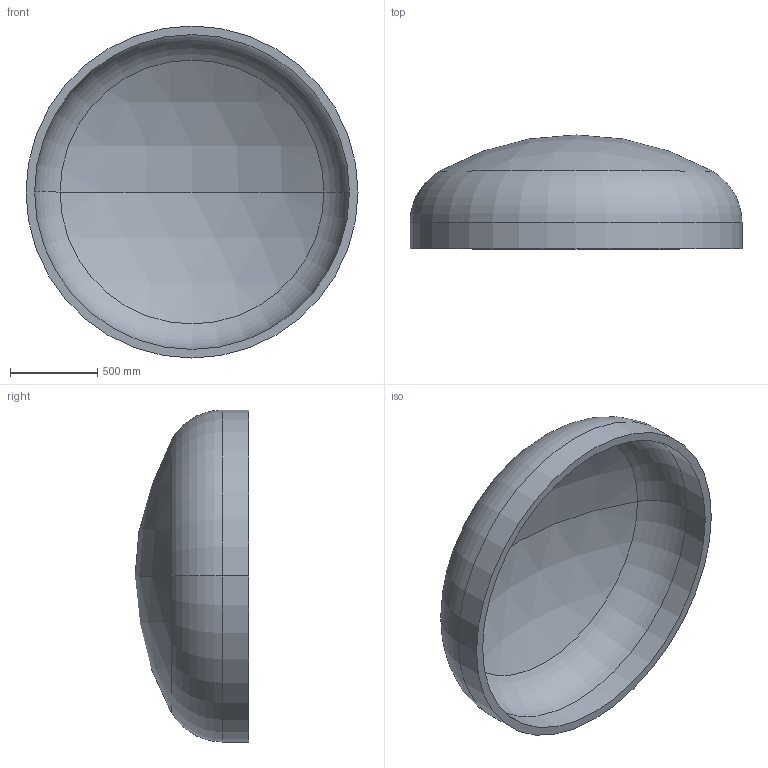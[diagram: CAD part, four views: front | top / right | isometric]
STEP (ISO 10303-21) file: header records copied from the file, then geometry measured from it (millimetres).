
FILE_DESCRIPTION (( 'STEP AP203' ), '1' );
FILE_NAME ('DIN 28013 Korbbogenform_-_Boden DIN 28013 - 1900 x 150 - I - s=49.step', '2016-07-01T13:12:33', ( '' ), ( '' ), 'SwSTEP 2.0', 'SolidWorks 2013', '' );
FILE_SCHEMA (( 'CONFIG_CONTROL_DESIGN' ));
Length unit declared in the file: millimetre
Products named in the file (1): DIN 28013 Korbbogenform_-_Boden DIN 28013 - 1900 x 150 - I - s=49
Bounding box: 1900 x 651.49 x 1900 mm (x, y, z)
Volume: 228429428.3 mm3; surface area: 9613615.3 mm2
Topology: 1 solids, 1 shells, 13 faces, 24 edges, 14 vertices
Faces by surface type: torus 4, cylinder 4, sphere 4, plane 1
Entity records: 407 total; most frequent: DIRECTION 72, CARTESIAN_POINT 52, ORIENTED_EDGE 48, AXIS2_PLACEMENT_3D 34, EDGE_CURVE 24, CIRCLE 20, EDGE_LOOP 14, VERTEX_POINT 14
